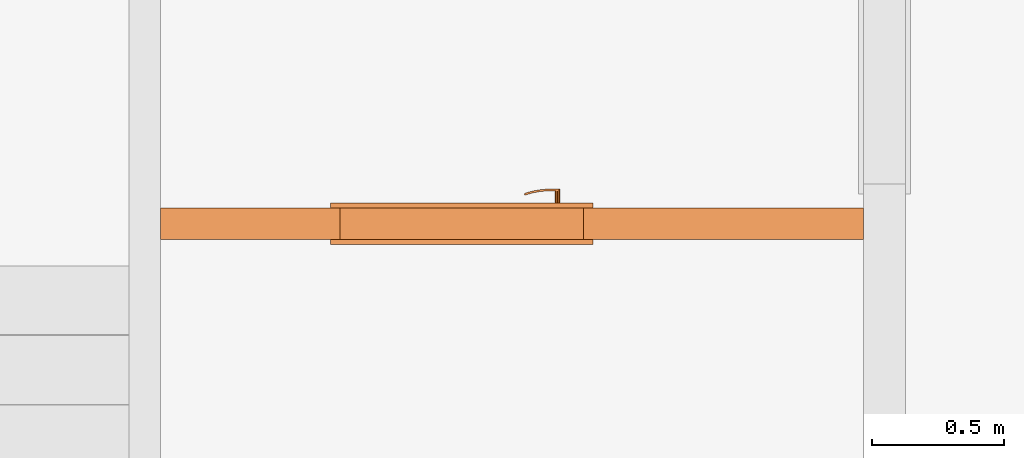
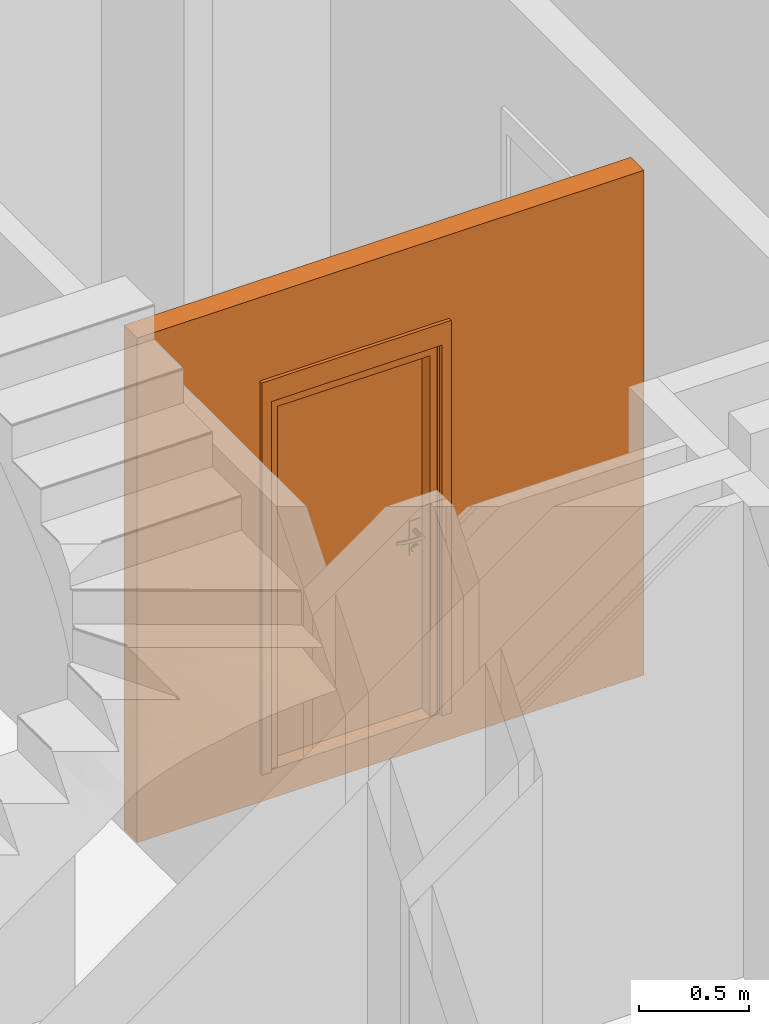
# One storey, part 13 of 61: 2 proxies, 1 opening.
"""IFC2X3 building model written with IfcOpenShell, lengths in millimetres."""

from ifc_helpers import new_model, entity, si_unit, converted_unit, derived_unit, money_unit, direction, frame, origin_with_axes, origin_2d_with_axis, place, context, subcontext, project, spatial, rectangle, extrude, open_shell, faceted_brep, surface_model, source, transform, mapped, material, type_object, element, fill, save


model = new_model("IFC2X3")

# Units and contexts
model_context = context("Model", 3, precision=0.01, world=origin_with_axes(), true_north=direction((0.34421633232, 0.938890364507)))
body_context = subcontext(model_context, "Body", "Model", "MODEL_VIEW")
ifc_project = project(units=[si_unit("LENGTHUNIT", "METRE", prefix="MILLI"), si_unit("AREAUNIT", "SQUARE_METRE"), si_unit("VOLUMEUNIT", "CUBIC_METRE"), converted_unit("PLANEANGLEUNIT", "DEGREE", entity("IfcPlaneAngleMeasure", 0.0174532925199), si_unit("PLANEANGLEUNIT", "RADIAN"), dimensions=[0, 0, 0, 0, 0, 0, 0]), si_unit("SOLIDANGLEUNIT", "STERADIAN"), money_unit("USD"), converted_unit("TIMEUNIT", "Year", entity("IfcTimeMeasure", 31556926.0), si_unit("TIMEUNIT", "SECOND"), dimensions=[0, 0, 1, 0, 0, 0, 0]), si_unit("MASSUNIT", "GRAM", prefix="KILO"), si_unit("THERMODYNAMICTEMPERATUREUNIT", "DEGREE_CELSIUS"), si_unit("LUMINOUSINTENSITYUNIT", "LUMEN"), si_unit("ENERGYUNIT", "JOULE", prefix="MEGA"), derived_unit("THERMALCONDUCTANCEUNIT", [(si_unit("POWERUNIT", "WATT"), 1), (si_unit("LENGTHUNIT", "METRE"), -1), (si_unit("THERMODYNAMICTEMPERATUREUNIT", "KELVIN"), -1)]), derived_unit("SPECIFICHEATCAPACITYUNIT", [(si_unit("ENERGYUNIT", "JOULE"), 1), (si_unit("MASSUNIT", "GRAM", prefix="KILO"), -1), (si_unit("THERMODYNAMICTEMPERATUREUNIT", "KELVIN"), -1)]), derived_unit("MASSDENSITYUNIT", [(si_unit("MASSUNIT", "GRAM", prefix="KILO"), 1), (si_unit("VOLUMEUNIT", "CUBIC_METRE"), -1)])], contexts=[model_context])

# Site, building, storey
site_placement = place(None, origin_with_axes())
site = spatial("IfcSite", under=ifc_project, at=site_placement, Name="USTRONIE MORSKIE", CompositionType="ELEMENT")
building_placement = place(site_placement, origin_with_axes())
building = spatial("IfcBuilding", under=site, at=building_placement, Name="Budynek", CompositionType="ELEMENT")
storey_placement = place(building_placement, frame((0.0, 0.0, 13000.0), z_axis=(0.0, 0.0, 1.0), x_axis=(1.0, 0.0, 0.0)))
storey = spatial("IfcBuildingStorey", under=building, at=storey_placement, Name="PIĘTRO 4", CompositionType="ELEMENT", Elevation=13000.0)

# Proxies, opening
ifc_material = material(Name="Bloczki silikatowe")
building_element_proxy_type_1 = type_object("IfcBuildingElementProxyType", Name="Bloczki silikatowe 120", PredefinedType="NOTDEFINED")
proxy_1_placement = place(storey_placement, frame((354717.920919, 729161.219701, -160.0), z_axis=(0.0, 0.0, 1.0), x_axis=(1.0, 0.0, 0.0)))
proxy_1 = element("IfcBuildingElementProxy", 1, at=proxy_1_placement, inside=storey, type_object=building_element_proxy_type_1, material=ifc_material, Name="SW-04", context=body_context, shape_type="Brep", body=[
    faceted_brep([(2720.0, 59.9999999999, 0.0), (2720.0, -59.9999999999, 0.0), (60.0, -59.9999999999, 0.0), (60.0, 59.9999999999, 0.0), (2720.0, 59.9999999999, 2800.0), (2720.0, -59.9999999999, 2800.0), (60.0, -59.9999999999, 2800.0), (60.0, 59.9999999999, 2800.0)], [[[0, 1, 2, 3]], [[1, 0, 4, 5]], [[1, 5, 6, 2]], [[7, 3, 2, 6]], [[4, 0, 3, 7]], [[5, 4, 7, 6]]]),
])
opening_placement = place(proxy_1_placement, frame((1200.0, 0.0, 160.0), z_axis=(0.0, 0.0, 1.0), x_axis=(1.0, 0.0, 0.0)))
opening = element("IfcOpeningElement", 2, at=opening_placement, cuts=proxy_1, Name="Dw.4", context=body_context, shape_type="SweptSolid", body=[
    extrude(rectangle(XDim=920.0, YDim=2070.0, at=origin_2d_with_axis()), frame((0.0, -120.0, 1035.0), z_axis=(0.0, -1.0, 0.0), x_axis=(-1.0, 0.0, 0.0)), (0.0, 0.0, -1.0), 360.0),
    extrude(rectangle(XDim=994.0, YDim=2177.0, at=origin_2d_with_axis()), frame((0.0, -59.9999999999, 1088.5), z_axis=(0.0, -1.0, 0.0), x_axis=(-1.0, 0.0, 0.0)), (0.0, 0.0, 1.0), 120.0),
    extrude(rectangle(XDim=994.0, YDim=2177.0, at=origin_2d_with_axis()), frame((0.0, 60.0000000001, 1088.5), z_axis=(0.0, 1.0, 0.0), x_axis=(-1.0, 0.0, 0.0)), (0.0, 0.0, 1.0), 120.0),
])
building_element_proxy_type_2 = type_object("IfcBuildingElementProxyType", Name="Drzwi 23", PredefinedType="NOTDEFINED")
shared_shape = source(origin_with_axes(), body_context, "Body", "SurfaceModel", [
    faceted_brep([(460.0, -115.0, 0.0), (460.0, -120.0, 0.0), (435.0, -120.0, 0.0), (435.0, -115.0, 0.0), (460.0, -115.0, 2070.0), (460.0, -120.0, 2070.0), (435.0, -120.0, 2045.0), (435.0, -115.0, 2045.0)], [[[0, 1, 2, 3]], [[4, 5, 1, 0]], [[1, 5, 6, 2]], [[3, 2, 6, 7]], [[0, 3, 7, 4]], [[7, 6, 5, 4]]]),
    faceted_brep([(-460.0, -115.0, 2070.0), (-460.0, -120.0, 2070.0), (-435.0, -120.0, 2045.0), (-435.0, -115.0, 2045.0), (-460.0, -115.0, 0.0), (-460.0, -120.0, 0.0), (-435.0, -120.0, 0.0), (-435.0, -115.0, 0.0)], [[[0, 1, 2, 3]], [[4, 5, 1, 0]], [[1, 5, 6, 2]], [[3, 2, 6, 7]], [[0, 3, 7, 4]], [[7, 6, 5, 4]]]),
    faceted_brep([(435.0, -115.0, 2045.0), (435.0, -120.0, 2045.0), (-435.0, -120.0, 2045.0), (-435.0, -115.0, 2045.0), (460.0, -115.0, 2070.0), (460.0, -120.0, 2070.0), (-460.0, -120.0, 2070.0), (-460.0, -115.0, 2070.0)], [[[0, 1, 2, 3]], [[4, 5, 1, 0]], [[1, 5, 6, 2]], [[3, 2, 6, 7]], [[0, 3, 7, 4]], [[7, 6, 5, 4]]]),
    faceted_brep([(497.0, -139.0, 0.0), (447.0, -139.0, 0.0), (447.0, -120.0, 0.0), (497.0, -120.0, 0.0), (497.0, -139.0, 2177.0), (447.0, -139.0, 2057.0), (447.0, -120.0, 2057.0), (497.0, -120.0, 2177.0)], [[[0, 1, 2, 3]], [[0, 4, 5, 1]], [[1, 5, 6, 2]], [[3, 2, 6, 7]], [[4, 0, 3, 7]], [[5, 4, 7, 6]]]),
    faceted_brep([(-497.0, -139.0, 2177.0), (-447.0, -139.0, 2057.0), (-447.0, -120.0, 2057.0), (-497.0, -120.0, 2177.0), (-497.0, -139.0, 0.0), (-447.0, -139.0, 0.0), (-447.0, -120.0, 0.0), (-497.0, -120.0, 0.0)], [[[0, 1, 2, 3]], [[0, 4, 5, 1]], [[1, 5, 6, 2]], [[3, 2, 6, 7]], [[4, 0, 3, 7]], [[5, 4, 7, 6]]]),
    faceted_brep([(497.0, -139.0, 2177.0), (447.0, -139.0, 2057.0), (447.0, -120.0, 2057.0), (497.0, -120.0, 2177.0), (-497.0, -139.0, 2177.0), (-447.0, -139.0, 2057.0), (-447.0, -120.0, 2057.0), (-497.0, -120.0, 2177.0)], [[[0, 1, 2, 3]], [[0, 4, 5, 1]], [[1, 5, 6, 2]], [[3, 2, 6, 7]], [[4, 0, 3, 7]], [[5, 4, 7, 6]]]),
    faceted_brep([(497.0, 19.0, 0.0), (497.0, 0.0, 0.0), (447.0, 0.0, 0.0), (447.0, 19.0, 0.0), (497.0, 19.0, 2177.0), (497.0, 0.0, 2177.0), (447.0, 0.0, 2057.0), (447.0, 19.0, 2057.0)], [[[0, 1, 2, 3]], [[4, 5, 1, 0]], [[1, 5, 6, 2]], [[3, 2, 6, 7]], [[0, 3, 7, 4]], [[7, 6, 5, 4]]]),
    faceted_brep([(-497.0, 19.0, 2177.0), (-497.0, 0.0, 2177.0), (-447.0, 0.0, 2057.0), (-447.0, 19.0, 2057.0), (-497.0, 19.0, 0.0), (-497.0, 0.0, 0.0), (-447.0, 0.0, 0.0), (-447.0, 19.0, 0.0)], [[[0, 1, 2, 3]], [[4, 5, 1, 0]], [[1, 5, 6, 2]], [[3, 2, 6, 7]], [[0, 3, 7, 4]], [[7, 6, 5, 4]]]),
    faceted_brep([(497.0, 19.0, 2177.0), (497.0, 0.0, 2177.0), (447.0, 0.0, 2057.0), (447.0, 19.0, 2057.0), (-497.0, 19.0, 2177.0), (-497.0, 0.0, 2177.0), (-447.0, 0.0, 2057.0), (-447.0, 19.0, 2057.0)], [[[0, 1, 2, 3]], [[4, 5, 1, 0]], [[1, 5, 6, 2]], [[3, 2, 6, 7]], [[0, 3, 7, 4]], [[7, 6, 5, 4]]]),
    faceted_brep([(400.0, -40.0, 0.0), (400.0, -115.0, 0.0), (400.0, -115.0, 2000.0), (400.0, -40.0, 2000.0), (412.0, -40.0, 0.0), (412.0, 0.0, 0.0), (460.0, 0.0, 0.0), (460.0, -115.0, 0.0), (460.0, -115.0, 2000.0), (412.0, -40.0, 2000.0), (460.0, 0.0, 2000.0), (412.0, 0.0, 2000.0)], [[[0, 1, 2, 3]], [[4, 5, 6, 7, 1, 0]], [[1, 7, 8, 2]], [[9, 3, 2, 8, 10, 11]], [[9, 4, 0, 3]], [[11, 5, 4, 9]], [[11, 10, 6, 5]], [[6, 10, 8, 7]]]),
    faceted_brep([(-412.0, -40.0, 2000.0), (-412.0, 0.0, 2000.0), (-460.0, 0.0, 2000.0), (-460.0, -115.0, 2000.0), (-400.0, -115.0, 2000.0), (-400.0, -40.0, 2000.0), (-412.0, -40.0, 0.0), (-412.0, 0.0, 0.0), (-460.0, 0.0, 0.0), (-460.0, -115.0, 0.0), (-400.0, -115.0, 0.0), (-400.0, -40.0, 0.0)], [[[0, 1, 2, 3, 4, 5]], [[0, 6, 7, 1]], [[7, 8, 2, 1]], [[2, 8, 9, 3]], [[3, 9, 10, 4]], [[5, 4, 10, 11]], [[5, 11, 6, 0]], [[6, 11, 10, 9, 8, 7]]]),
    faceted_brep([(412.0, 0.0, 2012.0), (-412.0, 0.0, 2012.0), (-412.0, 0.0, 2000.0), (-460.0, 0.0, 2000.0), (-460.0, 0.0, 2070.0), (460.0, 0.0, 2070.0), (460.0, 0.0, 2000.0), (412.0, 0.0, 2000.0), (412.0, -40.0, 2012.0), (-412.0, -40.0, 2012.0), (-412.0, -40.0, 2000.0), (-400.0, -40.0, 2000.0), (-400.0, -115.0, 2000.0), (-460.0, -115.0, 2000.0), (-460.0, -115.0, 2070.0), (460.0, -115.0, 2070.0), (460.0, -115.0, 2000.0), (412.0, -40.0, 2000.0), (400.0, -115.0, 2000.0), (400.0, -40.0, 2000.0)], [[[0, 1, 2, 3, 4, 5, 6, 7]], [[0, 8, 9, 1]], [[1, 9, 10, 2]], [[10, 11, 12, 13, 3, 2]], [[4, 3, 13, 14]], [[5, 4, 14, 15]], [[6, 5, 15, 16]], [[17, 7, 6, 16, 18, 19]], [[7, 17, 8, 0]], [[10, 9, 8, 17, 19, 11]], [[19, 18, 12, 11]], [[12, 18, 16, 15, 14, 13]]]),
    faceted_brep([(390.5, -40.0, 1060.0), (333.5, -40.0, 1060.0), (333.5, -43.0, 1060.0), (390.5, -43.0, 1060.0), (390.5, -40.0, 870.0), (333.5, -40.0, 870.0), (333.5, -43.0, 870.0), (390.5, -43.0, 870.0)], [[[0, 1, 2, 3]], [[0, 4, 5, 1]], [[1, 5, 6, 2]], [[3, 2, 6, 7]], [[4, 0, 3, 7]], [[5, 4, 7, 6]]]),
    faceted_brep([(362.0, -104.0, 990.0), (367.0, -104.0, 991.339745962), (367.0, -111.0, 991.339745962), (362.0, -111.0, 990.0), (337.0, -104.0, 990.0), (337.0, -104.0, 1010.0), (362.0, -104.0, 1010.0), (367.0, -104.0, 1008.66025404), (370.660254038, -104.0, 1005.0), (372.0, -104.0, 1000.0), (370.660254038, -104.0, 995.0), (370.660254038, -111.0, 995.0), (372.0, -111.0, 1000.0), (370.660254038, -111.0, 1005.0), (367.0, -111.0, 1008.66025404), (362.0, -111.0, 1010.0), (337.0, -111.0, 1010.0), (337.0, -111.0, 990.0)], [[[0, 1, 2, 3]], [[0, 4, 5, 6, 7, 8, 9, 10, 1]], [[1, 10, 11, 2]], [[3, 2, 11, 12, 13, 14, 15, 16, 17]], [[4, 0, 3, 17]], [[5, 4, 17, 16]], [[6, 5, 16, 15]], [[7, 6, 15, 14]], [[8, 7, 14, 13]], [[9, 8, 13, 12]], [[10, 9, 12, 11]]]),
    surface_model("IfcShellBasedSurfaceModel", [(337.0, -104.0, 1010.0), (323.901717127, -104.0, 1009.60730092), (323.596090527, -111.0, 1009.60730092), (337.0, -104.0, 990.0), (323.901717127, -104.0, 990.392699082), (296.890283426, -108.663544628, 1008.82190275), (337.0, -111.0, 1010.0), (337.0, -111.0, 990.0), (297.804837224, -101.716818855, 991.178097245), (297.804837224, -101.716818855, 1008.82190275), (296.890283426, -108.663544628, 991.178097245), (323.596090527, -111.0, 990.392699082), (272.006256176, -97.1678329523, 991.963495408), (272.006256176, -97.1678329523, 1008.03650459), (270.489735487, -104.008415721, 1008.03650459), (270.489735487, -104.008415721, 991.963495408), (246.702316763, -90.3876628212, 992.748893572), (246.702316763, -90.3876628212, 1007.25110643), (244.59537082, -97.0700416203, 1007.25110643), (244.59537082, -97.0700416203, 992.748893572), (238.829442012, -87.5221707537, 993.0), (238.829442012, -87.5221707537, 1007.0), (236.538795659, -94.1376880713, 1007.0), (236.538795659, -94.1376880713, 993.0)], [open_shell([[[0, 1, 2]], [[0, 3, 4, 1]], [[1, 5, 2]], [[0, 2, 6]], [[4, 3, 7]], [[1, 4, 8, 9]], [[1, 9, 5]], [[2, 5, 10, 11]], [[6, 2, 11, 7]], [[4, 7, 11]], [[8, 4, 11]], [[9, 8, 12, 13]], [[9, 14, 5]], [[5, 14, 15, 10]], [[8, 11, 10]], [[12, 8, 10]], [[13, 12, 16, 17]], [[9, 13, 14]], [[14, 18, 19, 15]], [[12, 10, 15]], [[16, 12, 15]], [[17, 16, 20, 21]], [[13, 17, 18]], [[13, 18, 14]], [[18, 22, 23, 19]], [[16, 15, 19]], [[20, 16, 19]], [[21, 20, 23, 22]], [[17, 21, 22]], [[17, 22, 18]], [[20, 19, 23]]])]),
    faceted_brep([(351.607695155, -53.0, 994.0), (350.0, -53.0, 1000.0), (349.0, -43.0, 1000.0), (350.741669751, -43.0, 993.5), (356.0, -53.0, 989.607695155), (362.0, -53.0, 988.0), (368.0, -53.0, 989.607695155), (372.392304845, -53.0, 994.0), (374.0, -53.0, 1000.0), (372.392304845, -53.0, 1006.0), (368.0, -53.0, 1010.39230485), (362.0, -53.0, 1012.0), (356.0, -53.0, 1010.39230485), (351.607695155, -53.0, 1006.0), (350.741669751, -43.0, 1006.5), (355.5, -43.0, 1011.25833025), (362.0, -43.0, 1013.0), (368.5, -43.0, 1011.25833025), (373.258330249, -43.0, 1006.5), (375.0, -43.0, 1000.0), (373.258330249, -43.0, 993.5), (368.5, -43.0, 988.741669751), (362.0, -43.0, 987.0), (355.5, -43.0, 988.741669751)], [[[0, 1, 2, 3]], [[1, 0, 4, 5, 6, 7, 8, 9, 10, 11, 12, 13]], [[1, 13, 14, 2]], [[2, 14, 15, 16, 17, 18, 19, 20, 21, 22, 23, 3]], [[4, 0, 3, 23]], [[5, 4, 23, 22]], [[6, 5, 22, 21]], [[7, 6, 21, 20]], [[8, 7, 20, 19]], [[9, 8, 19, 18]], [[10, 9, 18, 17]], [[11, 10, 17, 16]], [[12, 11, 16, 15]], [[13, 12, 15, 14]]]),
    faceted_brep([(344.679491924, -47.0, 895.0), (342.0, -47.0, 905.0), (340.0, -43.0, 905.0), (342.947441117, -43.0, 894.0), (352.0, -47.0, 887.679491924), (362.0, -47.0, 885.0), (372.0, -47.0, 887.679491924), (379.320508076, -47.0, 895.0), (382.0, -47.0, 905.0), (379.320508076, -47.0, 915.0), (372.0, -47.0, 922.320508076), (362.0, -47.0, 925.0), (352.0, -47.0, 922.320508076), (344.679491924, -47.0, 915.0), (342.947441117, -43.0, 916.0), (351.0, -43.0, 924.052558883), (362.0, -43.0, 927.0), (373.0, -43.0, 924.052558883), (381.052558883, -43.0, 916.0), (384.0, -43.0, 905.0), (381.052558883, -43.0, 894.0), (373.0, -43.0, 885.947441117), (362.0, -43.0, 883.0), (351.0, -43.0, 885.947441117)], [[[0, 1, 2, 3]], [[1, 0, 4, 5, 6, 7, 8, 9, 10, 11, 12, 13]], [[1, 13, 14, 2]], [[2, 14, 15, 16, 17, 18, 19, 20, 21, 22, 23, 3]], [[4, 0, 3, 23]], [[5, 4, 23, 22]], [[6, 5, 22, 21]], [[7, 6, 21, 20]], [[8, 7, 20, 19]], [[9, 8, 19, 18]], [[10, 9, 18, 17]], [[11, 10, 17, 16]], [[12, 11, 16, 15]], [[13, 12, 15, 14]]]),
    faceted_brep([(357.050252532, -49.0, 909.050252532), (355.0, -49.0, 914.0), (354.0, -47.0, 914.0), (356.343145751, -47.0, 908.343145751), (362.0, -49.0, 907.0), (366.949747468, -49.0, 909.050252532), (369.0, -49.0, 914.0), (366.949747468, -49.0, 918.949747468), (362.0, -49.0, 921.0), (357.050252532, -49.0, 918.949747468), (356.343145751, -47.0, 919.656854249), (362.0, -47.0, 922.0), (367.656854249, -47.0, 919.656854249), (370.0, -47.0, 914.0), (367.656854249, -47.0, 908.343145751), (362.0, -47.0, 906.0)], [[[0, 1, 2, 3]], [[1, 0, 4, 5, 6, 7, 8, 9]], [[1, 9, 10, 2]], [[2, 10, 11, 12, 13, 14, 15, 3]], [[4, 0, 3, 15]], [[5, 4, 15, 14]], [[6, 5, 14, 13]], [[7, 6, 13, 12]], [[8, 7, 12, 11]], [[9, 8, 11, 10]]]),
    faceted_brep([(362.0, -53.0, 1010.0), (357.0, -53.0, 1008.66025404), (357.0, -104.0, 1008.66025404), (362.0, -104.0, 1010.0), (367.0, -53.0, 1008.66025404), (370.660254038, -53.0, 1005.0), (372.0, -53.0, 1000.0), (370.660254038, -53.0, 995.0), (367.0, -53.0, 991.339745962), (362.0, -53.0, 990.0), (357.0, -53.0, 991.339745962), (353.339745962, -53.0, 995.0), (352.0, -53.0, 1000.0), (353.339745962, -53.0, 1005.0), (353.339745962, -104.0, 1005.0), (352.0, -104.0, 1000.0), (353.339745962, -104.0, 995.0), (357.0, -104.0, 991.339745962), (362.0, -104.0, 990.0), (367.0, -104.0, 991.339745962), (370.660254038, -104.0, 995.0), (372.0, -104.0, 1000.0), (370.660254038, -104.0, 1005.0), (367.0, -104.0, 1008.66025404)], [[[0, 1, 2, 3]], [[0, 4, 5, 6, 7, 8, 9, 10, 11, 12, 13, 1]], [[1, 13, 14, 2]], [[3, 2, 14, 15, 16, 17, 18, 19, 20, 21, 22, 23]], [[4, 0, 3, 23]], [[5, 4, 23, 22]], [[6, 5, 22, 21]], [[7, 6, 21, 20]], [[8, 7, 20, 19]], [[9, 8, 19, 18]], [[10, 9, 18, 17]], [[11, 10, 17, 16]], [[12, 11, 16, 15]], [[13, 12, 15, 14]]]),
    faceted_brep([(390.5, 0.0, 1060.0), (390.5, 3.0, 1060.0), (333.5, 3.0, 1060.0), (333.5, 0.0, 1060.0), (390.5, 0.0, 870.0), (390.5, 3.0, 870.0), (333.5, 3.0, 870.0), (333.5, 0.0, 870.0)], [[[0, 1, 2, 3]], [[4, 5, 1, 0]], [[1, 5, 6, 2]], [[3, 2, 6, 7]], [[0, 3, 7, 4]], [[7, 6, 5, 4]]]),
    faceted_brep([(362.0, 64.0, 990.0), (362.0, 71.0, 990.0), (367.0, 71.0, 991.339745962), (367.0, 64.0, 991.339745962), (337.0, 64.0, 990.0), (337.0, 71.0, 990.0), (337.0, 71.0, 1010.0), (362.0, 71.0, 1010.0), (367.0, 71.0, 1008.66025404), (370.660254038, 71.0, 1005.0), (372.0, 71.0, 1000.0), (370.660254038, 71.0, 995.0), (370.660254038, 64.0, 995.0), (372.0, 64.0, 1000.0), (370.660254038, 64.0, 1005.0), (367.0, 64.0, 1008.66025404), (362.0, 64.0, 1010.0), (337.0, 64.0, 1010.0)], [[[0, 1, 2, 3]], [[4, 5, 1, 0]], [[1, 5, 6, 7, 8, 9, 10, 11, 2]], [[3, 2, 11, 12]], [[0, 3, 12, 13, 14, 15, 16, 17, 4]], [[17, 6, 5, 4]], [[16, 7, 6, 17]], [[15, 8, 7, 16]], [[14, 9, 8, 15]], [[13, 10, 9, 14]], [[12, 11, 10, 13]]]),
    surface_model("IfcShellBasedSurfaceModel", [(337.0, 64.0, 1010.0), (323.596090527, 71.0, 1009.60730092), (323.901717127, 64.0, 1009.60730092), (337.0, 71.0, 1010.0), (296.890283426, 68.6635446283, 1008.82190275), (323.901717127, 64.0, 990.392699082), (337.0, 64.0, 990.0), (337.0, 71.0, 990.0), (323.596090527, 71.0, 990.392699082), (296.890283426, 68.6635446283, 991.178097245), (297.804837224, 61.716818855, 1008.82190275), (297.804837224, 61.716818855, 991.178097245), (270.489735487, 64.0084157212, 991.963495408), (270.489735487, 64.0084157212, 1008.03650459), (272.006256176, 57.1678329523, 1008.03650459), (272.006256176, 57.1678329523, 991.963495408), (244.59537082, 57.0700416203, 992.748893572), (244.59537082, 57.0700416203, 1007.25110643), (246.702316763, 50.3876628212, 1007.25110643), (246.702316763, 50.3876628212, 992.748893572), (236.538795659, 54.1376880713, 993.0), (236.538795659, 54.1376880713, 1007.0), (238.829442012, 47.5221707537, 1007.0), (238.829442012, 47.5221707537, 993.0)], [open_shell([[[0, 1, 2]], [[0, 3, 1]], [[2, 1, 4]], [[0, 2, 5, 6]], [[3, 7, 8, 1]], [[1, 8, 9, 4]], [[2, 4, 10]], [[2, 10, 11, 5]], [[5, 7, 6]], [[5, 8, 7]], [[11, 9, 8]], [[4, 9, 12, 13]], [[10, 4, 13]], [[10, 14, 15, 11]], [[11, 8, 5]], [[15, 9, 11]], [[15, 12, 9]], [[13, 12, 16, 17]], [[10, 13, 14]], [[14, 18, 19, 15]], [[19, 12, 15]], [[19, 16, 12]], [[17, 16, 20, 21]], [[14, 13, 17]], [[14, 17, 18]], [[18, 22, 23, 19]], [[23, 16, 19]], [[23, 20, 16]], [[22, 21, 20, 23]], [[18, 17, 21]], [[18, 21, 22]]])]),
    faceted_brep([(351.607695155, 13.0, 994.0), (350.741669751, 3.0, 993.5), (349.0, 3.0, 1000.0), (350.0, 13.0, 1000.0), (356.0, 13.0, 989.607695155), (355.5, 3.0, 988.741669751), (362.0, 3.0, 987.0), (368.5, 3.0, 988.741669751), (373.258330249, 3.0, 993.5), (375.0, 3.0, 1000.0), (373.258330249, 3.0, 1006.5), (368.5, 3.0, 1011.25833025), (362.0, 3.0, 1013.0), (355.5, 3.0, 1011.25833025), (350.741669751, 3.0, 1006.5), (351.607695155, 13.0, 1006.0), (356.0, 13.0, 1010.39230485), (362.0, 13.0, 1012.0), (368.0, 13.0, 1010.39230485), (372.392304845, 13.0, 1006.0), (374.0, 13.0, 1000.0), (372.392304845, 13.0, 994.0), (368.0, 13.0, 989.607695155), (362.0, 13.0, 988.0)], [[[0, 1, 2, 3]], [[4, 5, 1, 0]], [[2, 1, 5, 6, 7, 8, 9, 10, 11, 12, 13, 14]], [[3, 2, 14, 15]], [[3, 15, 16, 17, 18, 19, 20, 21, 22, 23, 4, 0]], [[23, 6, 5, 4]], [[22, 7, 6, 23]], [[21, 8, 7, 22]], [[20, 9, 8, 21]], [[19, 10, 9, 20]], [[18, 11, 10, 19]], [[17, 12, 11, 18]], [[16, 13, 12, 17]], [[15, 14, 13, 16]]]),
    faceted_brep([(344.679491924, 7.0, 895.0), (342.947441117, 3.0, 894.0), (340.0, 3.0, 905.0), (342.0, 7.0, 905.0), (352.0, 7.0, 887.679491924), (351.0, 3.0, 885.947441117), (362.0, 3.0, 883.0), (373.0, 3.0, 885.947441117), (381.052558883, 3.0, 894.0), (384.0, 3.0, 905.0), (381.052558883, 3.0, 916.0), (373.0, 3.0, 924.052558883), (362.0, 3.0, 927.0), (351.0, 3.0, 924.052558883), (342.947441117, 3.0, 916.0), (344.679491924, 7.0, 915.0), (352.0, 7.0, 922.320508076), (362.0, 7.0, 925.0), (372.0, 7.0, 922.320508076), (379.320508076, 7.0, 915.0), (382.0, 7.0, 905.0), (379.320508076, 7.0, 895.0), (372.0, 7.0, 887.679491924), (362.0, 7.0, 885.0)], [[[0, 1, 2, 3]], [[4, 5, 1, 0]], [[2, 1, 5, 6, 7, 8, 9, 10, 11, 12, 13, 14]], [[3, 2, 14, 15]], [[3, 15, 16, 17, 18, 19, 20, 21, 22, 23, 4, 0]], [[23, 6, 5, 4]], [[22, 7, 6, 23]], [[21, 8, 7, 22]], [[20, 9, 8, 21]], [[19, 10, 9, 20]], [[18, 11, 10, 19]], [[17, 12, 11, 18]], [[16, 13, 12, 17]], [[15, 14, 13, 16]]]),
    faceted_brep([(357.050252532, 9.0, 909.050252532), (356.343145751, 7.0, 908.343145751), (354.0, 7.0, 914.0), (355.0, 9.0, 914.0), (362.0, 9.0, 907.0), (362.0, 7.0, 906.0), (367.656854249, 7.0, 908.343145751), (370.0, 7.0, 914.0), (367.656854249, 7.0, 919.656854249), (362.0, 7.0, 922.0), (356.343145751, 7.0, 919.656854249), (357.050252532, 9.0, 918.949747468), (362.0, 9.0, 921.0), (366.949747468, 9.0, 918.949747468), (369.0, 9.0, 914.0), (366.949747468, 9.0, 909.050252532)], [[[0, 1, 2, 3]], [[4, 5, 1, 0]], [[2, 1, 5, 6, 7, 8, 9, 10]], [[3, 2, 10, 11]], [[3, 11, 12, 13, 14, 15, 4, 0]], [[15, 6, 5, 4]], [[14, 7, 6, 15]], [[13, 8, 7, 14]], [[12, 9, 8, 13]], [[11, 10, 9, 12]]]),
    faceted_brep([(362.0, 13.0, 1010.0), (362.0, 64.0, 1010.0), (357.0, 64.0, 1008.66025404), (357.0, 13.0, 1008.66025404), (367.0, 13.0, 1008.66025404), (367.0, 64.0, 1008.66025404), (370.660254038, 64.0, 1005.0), (372.0, 64.0, 1000.0), (370.660254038, 64.0, 995.0), (367.0, 64.0, 991.339745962), (362.0, 64.0, 990.0), (357.0, 64.0, 991.339745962), (353.339745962, 64.0, 995.0), (352.0, 64.0, 1000.0), (353.339745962, 64.0, 1005.0), (353.339745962, 13.0, 1005.0), (352.0, 13.0, 1000.0), (353.339745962, 13.0, 995.0), (357.0, 13.0, 991.339745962), (362.0, 13.0, 990.0), (367.0, 13.0, 991.339745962), (370.660254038, 13.0, 995.0), (372.0, 13.0, 1000.0), (370.660254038, 13.0, 1005.0)], [[[0, 1, 2, 3]], [[4, 5, 1, 0]], [[1, 5, 6, 7, 8, 9, 10, 11, 12, 13, 14, 2]], [[3, 2, 14, 15]], [[0, 3, 15, 16, 17, 18, 19, 20, 21, 22, 23, 4]], [[23, 6, 5, 4]], [[22, 7, 6, 23]], [[21, 8, 7, 22]], [[20, 9, 8, 21]], [[19, 10, 9, 20]], [[18, 11, 10, 19]], [[17, 12, 11, 18]], [[16, 13, 12, 17]], [[15, 14, 13, 16]]]),
    faceted_brep([(-412.0, 0.0, 0.0), (412.0, 0.0, 0.0), (412.0, -40.0, 0.0), (-412.0, -40.0, 0.0), (-412.0, 0.0, 2012.0), (412.0, 0.0, 2012.0), (412.0, -40.0, 2012.0), (-412.0, -40.0, 2012.0)], [[[0, 1, 2, 3]], [[0, 4, 5, 1]], [[1, 5, 6, 2]], [[3, 2, 6, 7]], [[4, 0, 3, 7]], [[5, 4, 7, 6]]]),
])
proxy_2_placement = place(opening_placement, frame((-400.0, 0.0, 0.0), z_axis=(0.0, 0.0, 1.0), x_axis=(1.0, 0.0, 0.0)))
proxy_2 = element("IfcBuildingElementProxy", 3, at=proxy_2_placement, inside=storey, type_object=building_element_proxy_type_2, Name="Dw.4", context=body_context, shape_type="MappedRepresentation", body=[
    mapped(shared_shape, transform((400.0, 60.0000000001, 0.0))),
])
fill(opening, proxy_2)

save(model, "model.ifc")
